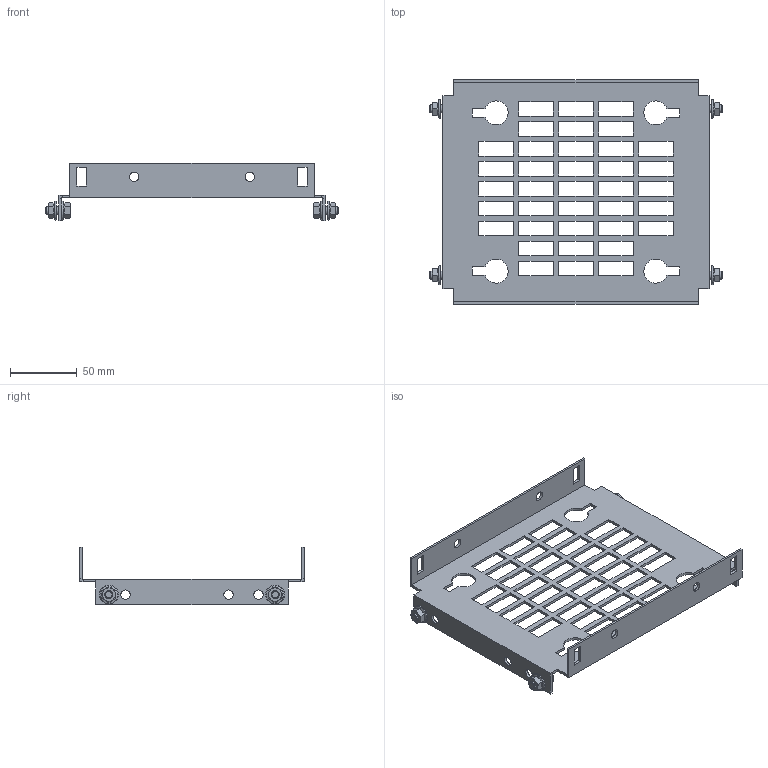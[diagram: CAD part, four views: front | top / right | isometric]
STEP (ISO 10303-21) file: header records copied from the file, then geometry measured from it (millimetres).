
FILE_DESCRIPTION(('Open CASCADE Model'),'2;1');
FILE_NAME('Open CASCADE Shape Model','2025-02-19T16:48:02',('Author'),( 'Open CASCADE'),'Open CASCADE STEP processor 7.8','Open CASCADE 7.8' ,'Unknown');
FILE_SCHEMA(('AUTOMOTIVE_DESIGN { 1 0 10303 214 1 1 1 1 }'));
Length unit declared in the file: millimetre
Products named in the file (4): Compound1; Solid1; Solid2; Solid3
Assembly tree (9 placements, depth 2):
  Compound1
    Solid1
    Solid2  x4
    Solid3  x4
Bounding box: 220 x 169 x 43 mm (x, y, z)
Volume: 74736.3 mm3; surface area: 82743.8 mm2
Topology: 9 solids, 9 shells, 440 faces, 1149 edges, 731 vertices
Faces by surface type: plane 282, cone 68, bspline 48, cylinder 30, torus 12
Full cylindrical faces by diameter (mm): 5 x4, 6 x8, 7 x14
Entity records: 9822 total; most frequent: CARTESIAN_POINT 2231, ORIENTED_EDGE 1620, DIRECTION 1362, EDGE_CURVE 810, LINE 652, VECTOR 652, VERTEX_POINT 533, FACE_BOUND 405
